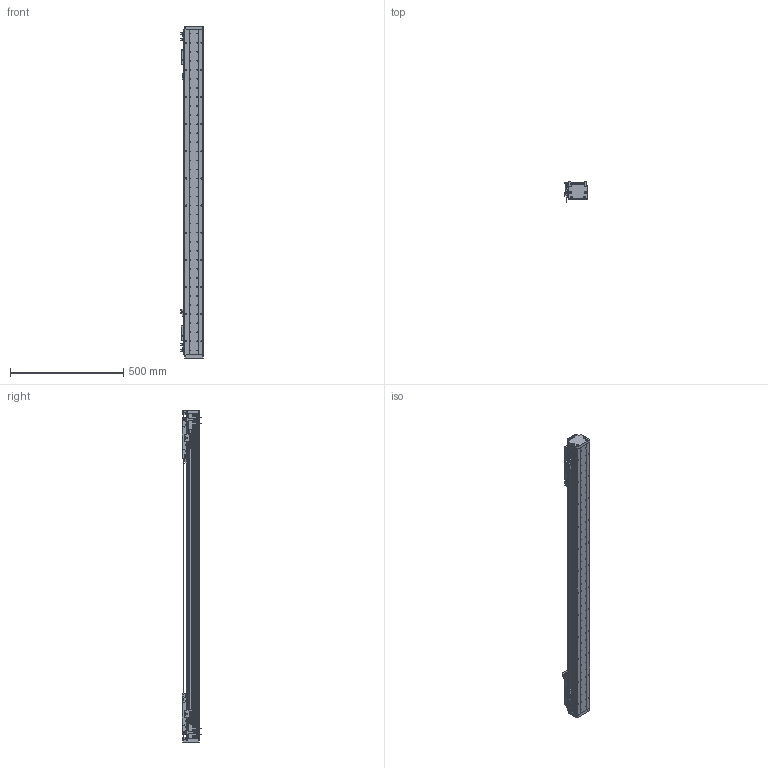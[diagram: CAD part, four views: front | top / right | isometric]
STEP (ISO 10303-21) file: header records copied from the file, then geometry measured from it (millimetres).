
FILE_DESCRIPTION (( 'STEP AP203' ), '1' );
FILE_NAME ('DA-A82-2-B2-T1020-C010-0.2 眻盄萇儂.STEP', '2025-08-13T02:32:54', ( '' ), ( '' ), 'SwSTEP 2.0', 'SolidWorks 2019', '' );
FILE_SCHEMA (( 'CONFIG_CONTROL_DESIGN' ));
Length unit declared in the file: millimetre
Products named in the file (29): 葩璃 PM-L25^DA-A82-B2-T-C010-0.2-N 眻盄萇儂; AU82-M 幗紩賑怢-1; 复件 XD-U-02  磁栅尺^DA-A82-B2-T-C010-0.2-N 直线电机; 复件 DA95-B2-GT-00 滑块钢轨^AU82-M-00 一体化滑动台板; 复件 复件 17517-0000-004-00  钢带压块^DA-A82-B2-T-C010-0.2-N 直线电机(默认); 葩璃 DA82-B2-DP-00 結え^AU82-M 幗紩賑怢; 复件 DA95-GT-T-00 底座钢轨^IU-AU82-L 底座导轨; 复件 DA82-GYP-ZJ-00 中间光电感应片^DA-A82-B2-T-C010-0.2-N 直线电机; 复件 复件 17517-0000-003-00 钢带拉块^DA-A82-B2-T-C010-0.2-N 直线电机; 复件 DA60-DMT-DTJ-00 读数头支架^DA-A82-B2-T-C010-0.2-N 直线电机; 复件 DA82-GDZ-ZJ-00 中间光电固定座^DA-A82-B2-T-C010-0.2-N 直线电机; 复件 六角薄螺母 M3^DA-A82-B2-T-C010-0.2-N 直线电机; DA-A60-GYP-DMT-00 光电感应片^DA-A82-B2-T-C010-0.2-N 直线电机(默认); 葩璃 BKM01-W040-TRL^DA-A82-B2-T-C010-0.2-N 眻盄萇儂; 复件 复件 17517-0000-002-00 端板^DA-A82-B2-T-C010-0.2-N 直线电机; 复件 BKM02-W040-C1-TP-DA-3.0 直线电机动子^DA-A82-B2-T-C010-0.2-N 直线电机; IU-AU82-L-00 菁釱(L1440); AU82-HT-M-00 賑雄怢啣; 复件 纯铜油杯 6x6mm^AU82-M 滚珠滑台; IU-AU82-L 菁釱絳寢; 复件 复件 DA82-XJ-00 缓冲橡胶^DA-A82-B2-T-C010-0.2-N 直线电机; AU82-M 幗紩賑怢; DA-A82-2-B2-T1020-C010-0.2 眻盄萇儂; 复件 DKW-GJ-XJ-00 防撞橡胶^DA-A82-B2-T-C010-0.2-N 直线电机; AU82-M-00 珨极趙賑雄怢啣; 葩璃 PM-T45^DA-A82-B2-T-C010-0.2-N 眻盄萇儂; AU82-M-00 珨极趙賑雄怢啣-1; 葩璃 DMT-010 1米m 0.2M^DA-A82-B2-T-C010-0.2-N 眻盄萇儂; 复件 复件 复件 DA82 钢带盖板^DA-A82-B2-T-C010-0.2-N 直线电机(默认)
Assembly tree (61 placements, depth 4):
  DA-A82-2-B2-T1020-C010-0.2 眻盄萇儂
    IU-AU82-L 菁釱絳寢
      IU-AU82-L-00 菁釱(L1440)
      复件 DA95-GT-T-00 底座钢轨^IU-AU82-L 底座导轨  x2
    AU82-M 幗紩賑怢
      AU82-M-00 珨极趙賑雄怢啣
        AU82-HT-M-00 賑雄怢啣
        复件 DA95-B2-GT-00 滑块钢轨^AU82-M-00 一体化滑动台板  x4
      葩璃 DA82-B2-DP-00 結え^AU82-M 幗紩賑怢  x2
      复件 纯铜油杯 6x6mm^AU82-M 滚珠滑台  x2
    AU82-M 幗紩賑怢-1
      AU82-M-00 珨极趙賑雄怢啣-1
        AU82-HT-M-00 賑雄怢啣
        复件 DA95-B2-GT-00 滑块钢轨^AU82-M-00 一体化滑动台板  x4
      葩璃 DA82-B2-DP-00 結え^AU82-M 幗紩賑怢  x2
      复件 纯铜油杯 6x6mm^AU82-M 滚珠滑台  x2
    复件 BKM02-W040-C1-TP-DA-3.0 直线电机动子^DA-A82-B2-T-C010-0.2-N 直线电机  x2
    复件 DA60-DMT-DTJ-00 读数头支架^DA-A82-B2-T-C010-0.2-N 直线电机  x2
    葩璃 DMT-010 1米m 0.2M^DA-A82-B2-T-C010-0.2-N 眻盄萇儂  x2
    DA-A60-GYP-DMT-00 光电感应片^DA-A82-B2-T-C010-0.2-N 直线电机(默认)  x2
    复件 DA82-GDZ-ZJ-00 中间光电固定座^DA-A82-B2-T-C010-0.2-N 直线电机
    葩璃 PM-L25^DA-A82-B2-T-C010-0.2-N 眻盄萇儂
    复件 DA82-GYP-ZJ-00 中间光电感应片^DA-A82-B2-T-C010-0.2-N 直线电机
    复件 DKW-GJ-XJ-00 防撞橡胶^DA-A82-B2-T-C010-0.2-N 直线电机
    复件 复件 17517-0000-003-00 钢带拉块^DA-A82-B2-T-C010-0.2-N 直线电机  x2
    复件 复件 DA82-XJ-00 缓冲橡胶^DA-A82-B2-T-C010-0.2-N 直线电机  x2
    复件 复件 17517-0000-004-00  钢带压块^DA-A82-B2-T-C010-0.2-N 直线电机(默认)  x2
    复件 复件 17517-0000-002-00 端板^DA-A82-B2-T-C010-0.2-N 直线电机  x2
    复件 复件 复件 DA82 钢带盖板^DA-A82-B2-T-C010-0.2-N 直线电机(默认)
    葩璃 BKM01-W040-TRL^DA-A82-B2-T-C010-0.2-N 眻盄萇儂
    葩璃 PM-T45^DA-A82-B2-T-C010-0.2-N 眻盄萇儂  x4
    复件 XD-U-02  磁栅尺^DA-A82-B2-T-C010-0.2-N 直线电机
    复件 六角薄螺母 M3^DA-A82-B2-T-C010-0.2-N 直线电机  x8
Bounding box: 98.95 x 87.2 x 1468 mm (x, y, z)
Volume: 4739408.6 mm3; surface area: 1405710 mm2
Topology: 70 solids, 118 shells, 3325 faces, 8549 edges, 5302 vertices
Faces by surface type: cylinder 1499, plane 1334, cone 456, bspline 16, torus 16, sphere 4
Entity records: 67743 total; most frequent: CARTESIAN_POINT 14749, DIRECTION 10539, ORIENTED_EDGE 9880, EDGE_CURVE 4940, AXIS2_PLACEMENT_3D 3997, VERTEX_POINT 3206, VECTOR 2545, LINE 2545
